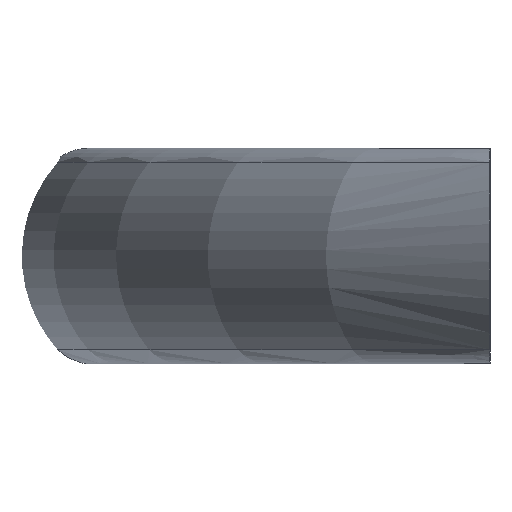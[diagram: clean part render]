
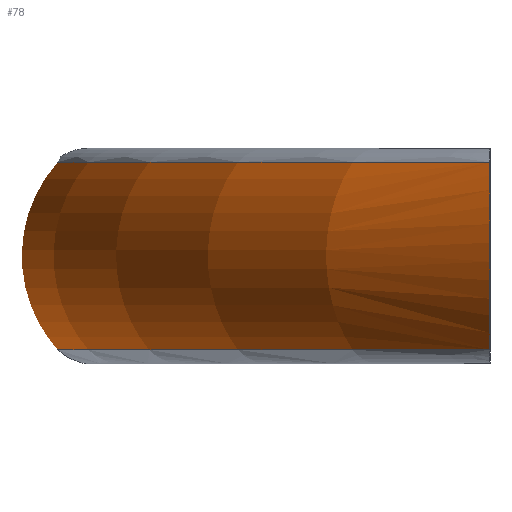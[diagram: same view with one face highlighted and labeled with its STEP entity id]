
A CAD part, left-side view. The second image highlights one B-rep face of the part: STEP entity #78.
In plain terms, the highlighted toroidal (fillet/blend) face has major radius 124.565 mm and minor radius 16.946 mm.
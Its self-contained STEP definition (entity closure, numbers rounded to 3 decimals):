
#78 = ADVANCED_FACE( '', ( #97 ), #98, .T. );
#97 = FACE_OUTER_BOUND( '', #129, .T. );
#98 = TOROIDAL_SURFACE( '', #130, 124.565, 16.946 );
#129 = EDGE_LOOP( '', ( #167, #168, #169, #170 ) );
#130 = AXIS2_PLACEMENT_3D( '', #171, #172, #173 );
#167 = ORIENTED_EDGE( '', *, *, #231, .F. );
#168 = ORIENTED_EDGE( '', *, *, #232, .T. );
#169 = ORIENTED_EDGE( '', *, *, #233, .T. );
#170 = ORIENTED_EDGE( '', *, *, #234, .T. );
#171 = CARTESIAN_POINT( '', ( 0., -84.511, 0. ) );
#172 = DIRECTION( '', ( 0., 0., -1. ) );
#173 = DIRECTION( '', ( -1., 0., 0. ) );
#231 = EDGE_CURVE( '', #254, #255, #256, .T. );
#232 = EDGE_CURVE( '', #254, #257, #258, .T. );
#233 = EDGE_CURVE( '', #257, #259, #260, .T. );
#234 = EDGE_CURVE( '', #259, #255, #261, .T. );
#254 = VERTEX_POINT( '', #286 );
#255 = VERTEX_POINT( '', #287 );
#256 = CIRCLE( '', #288, 137.179 );
#257 = VERTEX_POINT( '', #289 );
#258 = B_SPLINE_CURVE_WITH_KNOTS( '', 3, ( #290, #291, #292, #293, #294, #295, #296, #297, #298, #299, #300, #301, #302, #303, #304, #305, #306, #307, #308, #309, #310, #311, #312, #313, #314, #315 ), .UNSPECIFIED., .F., .F., ( 4, 2, 2, 2, 2, 2, 2, 2, 2, 2, 2, 2, 4 ), ( 0.118, 0.12, 0.121, 0.124, 0.128, 0.131, 0.133, 0.134, 0.136, 0.137, 0.141, 0.142, 0.144 ), .UNSPECIFIED. );
#259 = VERTEX_POINT( '', #316 );
#260 = CIRCLE( '', #317, 137.179 );
#261 = B_SPLINE_CURVE_WITH_KNOTS( '', 3, ( #318, #319, #320, #321, #322, #323, #324, #325, #326, #327, #328, #329, #330, #331, #332, #333, #334, #335, #336, #337, #338, #339, #340, #341, #342, #343, #344, #345, #346, #347 ), .UNSPECIFIED., .F., .F., ( 4, 2, 2, 2, 2, 2, 2, 2, 2, 2, 2, 2, 2, 2, 4 ), ( 0.053, 0.056, 0.057, 0.059, 0.062, 0.063, 0.064, 0.065, 0.067, 0.069, 0.072, 0.073, 0.075, 0.077, 0.078 ), .UNSPECIFIED. );
#286 = CARTESIAN_POINT( '', ( -108.056, 0., -11.315 ) );
#287 = CARTESIAN_POINT( '', ( 108.056, 0., -11.315 ) );
#288 = AXIS2_PLACEMENT_3D( '', #504, #505, #506 );
#289 = CARTESIAN_POINT( '', ( -108.056, 0., 11.315 ) );
#290 = CARTESIAN_POINT( '', ( -108.056, 0., -11.315 ) );
#291 = CARTESIAN_POINT( '', ( -108.459, 0., -10.961 ) );
#292 = CARTESIAN_POINT( '', ( -108.848, 0., -10.59 ) );
#293 = CARTESIAN_POINT( '', ( -109.593, 0., -9.807 ) );
#294 = CARTESIAN_POINT( '', ( -109.951, 0., -9.395 ) );
#295 = CARTESIAN_POINT( '', ( -110.951, 0., -8.123 ) );
#296 = CARTESIAN_POINT( '', ( -111.529, 0., -7.219 ) );
#297 = CARTESIAN_POINT( '', ( -112.49, 0., -5.287 ) );
#298 = CARTESIAN_POINT( '', ( -112.871, 0., -4.253 ) );
#299 = CARTESIAN_POINT( '', ( -113.377, 0., -2.146 ) );
#300 = CARTESIAN_POINT( '', ( -113.504, 0., -1.08 ) );
#301 = CARTESIAN_POINT( '', ( -113.504, 0., 0.537 ) );
#302 = CARTESIAN_POINT( '', ( -113.472, 0., 1.083 ) );
#303 = CARTESIAN_POINT( '', ( -113.343, 0., 2.157 ) );
#304 = CARTESIAN_POINT( '', ( -113.248, 0., 2.686 ) );
#305 = CARTESIAN_POINT( '', ( -112.996, 0., 3.73 ) );
#306 = CARTESIAN_POINT( '', ( -112.841, 0., 4.245 ) );
#307 = CARTESIAN_POINT( '', ( -112.47, 0., 5.259 ) );
#308 = CARTESIAN_POINT( '', ( -112.254, 0., 5.761 ) );
#309 = CARTESIAN_POINT( '', ( -111.533, 0., 7.213 ) );
#310 = CARTESIAN_POINT( '', ( -110.954, 0., 8.119 ) );
#311 = CARTESIAN_POINT( '', ( -109.951, 0., 9.395 ) );
#312 = CARTESIAN_POINT( '', ( -109.594, 0., 9.806 ) );
#313 = CARTESIAN_POINT( '', ( -108.849, 0., 10.588 ) );
#314 = CARTESIAN_POINT( '', ( -108.46, 0., 10.96 ) );
#315 = CARTESIAN_POINT( '', ( -108.056, 0., 11.315 ) );
#316 = CARTESIAN_POINT( '', ( 108.056, 0., 11.315 ) );
#317 = AXIS2_PLACEMENT_3D( '', #507, #508, #509 );
#318 = CARTESIAN_POINT( '', ( 108.056, 0., 11.315 ) );
#319 = CARTESIAN_POINT( '', ( 108.865, 0., 10.605 ) );
#320 = CARTESIAN_POINT( '', ( 109.608, 0., 9.83 ) );
#321 = CARTESIAN_POINT( '', ( 110.61, 0., 8.557 ) );
#322 = CARTESIAN_POINT( '', ( 110.927, 0., 8.111 ) );
#323 = CARTESIAN_POINT( '', ( 111.507, 0., 7.2 ) );
#324 = CARTESIAN_POINT( '', ( 111.771, 0., 6.732 ) );
#325 = CARTESIAN_POINT( '', ( 112.486, 0., 5.296 ) );
#326 = CARTESIAN_POINT( '', ( 112.859, 0., 4.293 ) );
#327 = CARTESIAN_POINT( '', ( 113.179, 0., 2.974 ) );
#328 = CARTESIAN_POINT( '', ( 113.236, 0., 2.706 ) );
#329 = CARTESIAN_POINT( '', ( 113.333, 0., 2.172 ) );
#330 = CARTESIAN_POINT( '', ( 113.373, 0., 1.905 ) );
#331 = CARTESIAN_POINT( '', ( 113.47, 0., 1.103 ) );
#332 = CARTESIAN_POINT( '', ( 113.503, 0., 0.567 ) );
#333 = CARTESIAN_POINT( '', ( 113.505, 0., -0.507 ) );
#334 = CARTESIAN_POINT( '', ( 113.475, 0., -1.044 ) );
#335 = CARTESIAN_POINT( '', ( 113.349, 0., -2.121 ) );
#336 = CARTESIAN_POINT( '', ( 113.253, 0., -2.66 ) );
#337 = CARTESIAN_POINT( '', ( 112.876, 0., -4.237 ) );
#338 = CARTESIAN_POINT( '', ( 112.506, 0., -5.249 ) );
#339 = CARTESIAN_POINT( '', ( 111.783, 0., -6.711 ) );
#340 = CARTESIAN_POINT( '', ( 111.515, 0., -7.186 ) );
#341 = CARTESIAN_POINT( '', ( 110.937, 0., -8.098 ) );
#342 = CARTESIAN_POINT( '', ( 110.625, 0., -8.537 ) );
#343 = CARTESIAN_POINT( '', ( 109.959, 0., -9.386 ) );
#344 = CARTESIAN_POINT( '', ( 109.604, 0., -9.795 ) );
#345 = CARTESIAN_POINT( '', ( 108.855, 0., -10.583 ) );
#346 = CARTESIAN_POINT( '', ( 108.462, 0., -10.959 ) );
#347 = CARTESIAN_POINT( '', ( 108.056, 0., -11.315 ) );
#504 = CARTESIAN_POINT( '', ( 0., -84.511, -11.315 ) );
#505 = DIRECTION( '', ( 0., 0., -1. ) );
#506 = DIRECTION( '', ( -1., 0., 0. ) );
#507 = CARTESIAN_POINT( '', ( 0., -84.511, 11.315 ) );
#508 = DIRECTION( '', ( 0., 0., -1. ) );
#509 = DIRECTION( '', ( -1., 0., 0. ) );
